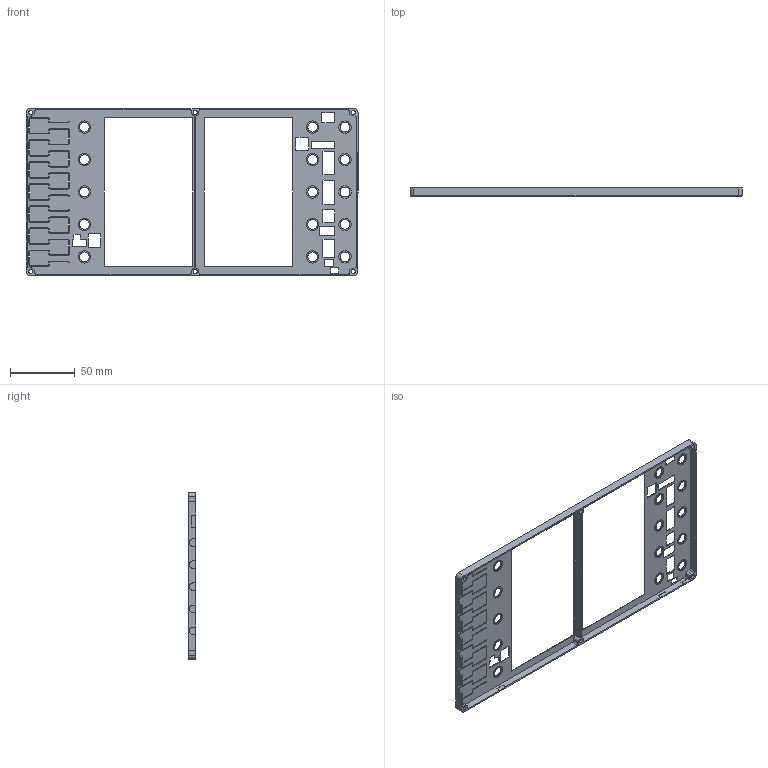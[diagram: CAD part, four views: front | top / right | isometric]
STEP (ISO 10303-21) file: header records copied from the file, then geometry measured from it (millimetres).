
FILE_DESCRIPTION (( 'STEP AP203' ), '1' );
FILE_NAME ('Matrix_V2_3DP.STEP', '2023-06-28T16:34:04', ( '' ), ( '' ), 'SwSTEP 2.0', 'SolidWorks 2016', '' );
FILE_SCHEMA (( 'CONFIG_CONTROL_DESIGN' ));
Length unit declared in the file: millimetre
Products named in the file (1): Matrix_V2_3DP
Bounding box: 256 x 6 x 128.5 mm (x, y, z)
Volume: 12915.4 mm3; surface area: 42203 mm2
Topology: 1 solids, 1 shells, 472 faces, 1362 edges, 908 vertices
Faces by surface type: plane 252, cylinder 220
Entity records: 15832 total; most frequent: DIRECTION 2749, CARTESIAN_POINT 2743, ORIENTED_EDGE 2724, EDGE_CURVE 1362, LINE 921, VECTOR 921, AXIS2_PLACEMENT_3D 914, VERTEX_POINT 908
